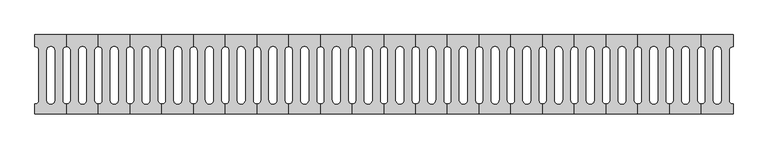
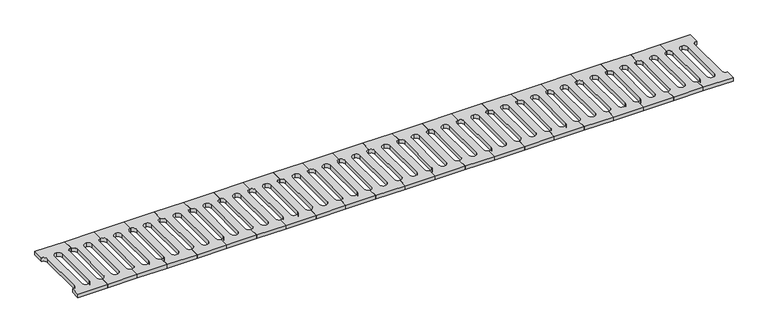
"""IFC4 building model written with IfcOpenShell, lengths in millimetres: proxy geometry, 排水沟盖板 : 排水沟盖板."""

from ifc_helpers import new_model, si_unit, point, frame, frame_2d, origin, place, context, project, spatial, polyline, circle_curve, trimmed, segment, composite_curve, outline, extrude, source, transform, mapped, element, save


def generic_models_5a88f2f2(model_context):
    return source(origin(), model_context, "Body", "SweptSolid", [
        extrude(outline(composite_curve([segment(polyline([(9600.0, 200.0), (9600.0, 140.0)]), True, "CONTINUOUS"), segment(trimmed(circle_curve(frame_2d((9600.0, 120.0)), 20.0), [point((9600.0, 140.0))], [point((9580.0, 120.0))], True, "CARTESIAN"), True, "CONTINUOUS"), segment(polyline([(9580.0, 120.0), (9580.0, -130.0)]), True, "CONTINUOUS"), segment(trimmed(circle_curve(frame_2d((9600.0, -130.0)), 20.0), [point((9580.0, -130.0))], [point((9600.0, -150.0))], True, "CARTESIAN"), True, "CONTINUOUS"), segment(polyline([(9600.0, -150.0), (9600.0, -200.0), (9440.0, -200.0), (9440.0, -150.0)]), True, "CONTINUOUS"), segment(trimmed(circle_curve(frame_2d((9440.0, -130.0)), 20.0), [point((9440.0, -150.0))], [point((9460.0, -130.0))], True, "CARTESIAN"), True, "CONTINUOUS"), segment(polyline([(9460.0, -130.0), (9460.0, 120.0)]), True, "CONTINUOUS"), segment(trimmed(circle_curve(frame_2d((9440.0, 120.0)), 20.0), [point((9460.0, 120.0))], [point((9440.0, 140.0))], True, "CARTESIAN"), True, "CONTINUOUS"), segment(polyline([(9440.0, 140.0), (9440.0, 200.0), (9600.0, 200.0)]), True, "CONTINUOUS")], self_intersect=False), holes=[composite_curve([segment(trimmed(circle_curve(frame_2d((9520.0, -130.0)), 20.0), [point((9500.0, -130.0))], [point((9520.0, -150.0))], True, "CARTESIAN"), True, "CONTINUOUS"), segment(trimmed(circle_curve(frame_2d((9520.0, -130.0)), 20.0), [point((9520.0, -150.0))], [point((9540.0, -130.0))], True, "CARTESIAN"), True, "CONTINUOUS"), segment(polyline([(9540.0, -130.0), (9540.0, 120.0)]), True, "CONTINUOUS"), segment(trimmed(circle_curve(frame_2d((9520.0, 120.0)), 20.0), [point((9540.0, 120.0))], [point((9520.0, 140.0))], True, "CARTESIAN"), True, "CONTINUOUS"), segment(trimmed(circle_curve(frame_2d((9520.0, 120.0)), 20.0), [point((9520.0, 140.0))], [point((9500.0, 120.0))], True, "CARTESIAN"), True, "CONTINUOUS"), segment(polyline([(9500.0, 120.0), (9500.0, -130.0)]), True, "CONTINUOUS")], self_intersect=False)]), frame((0.0, 0.0, -20.0), z_axis=(0.0, 0.0, 1.0), x_axis=(1.0, 0.0, 0.0)), (0.0, 0.0, 1.0), 20.0),
        extrude(outline(composite_curve([segment(polyline([(9440.0, 200.0), (9440.0, 140.0)]), True, "CONTINUOUS"), segment(trimmed(circle_curve(frame_2d((9440.0, 120.0)), 20.0), [point((9440.0, 140.0))], [point((9420.0, 120.0))], True, "CARTESIAN"), True, "CONTINUOUS"), segment(polyline([(9420.0, 120.0), (9420.0, -130.0)]), True, "CONTINUOUS"), segment(trimmed(circle_curve(frame_2d((9440.0, -130.0)), 20.0), [point((9420.0, -130.0))], [point((9440.0, -150.0))], True, "CARTESIAN"), True, "CONTINUOUS"), segment(polyline([(9440.0, -150.0), (9440.0, -200.0), (9280.0, -200.0), (9280.0, -150.0)]), True, "CONTINUOUS"), segment(trimmed(circle_curve(frame_2d((9280.0, -130.0)), 20.0), [point((9280.0, -150.0))], [point((9300.0, -130.0))], True, "CARTESIAN"), True, "CONTINUOUS"), segment(polyline([(9300.0, -130.0), (9300.0, 120.0)]), True, "CONTINUOUS"), segment(trimmed(circle_curve(frame_2d((9280.0, 120.0)), 20.0), [point((9300.0, 120.0))], [point((9280.0, 140.0))], True, "CARTESIAN"), True, "CONTINUOUS"), segment(polyline([(9280.0, 140.0), (9280.0, 200.0), (9440.0, 200.0)]), True, "CONTINUOUS")], self_intersect=False), holes=[composite_curve([segment(trimmed(circle_curve(frame_2d((9360.0, -130.0)), 20.0), [point((9340.0, -130.0))], [point((9360.0, -150.0))], True, "CARTESIAN"), True, "CONTINUOUS"), segment(trimmed(circle_curve(frame_2d((9360.0, -130.0)), 20.0), [point((9360.0, -150.0))], [point((9380.0, -130.0))], True, "CARTESIAN"), True, "CONTINUOUS"), segment(polyline([(9380.0, -130.0), (9380.0, 120.0)]), True, "CONTINUOUS"), segment(trimmed(circle_curve(frame_2d((9360.0, 120.0)), 20.0), [point((9380.0, 120.0))], [point((9360.0, 140.0))], True, "CARTESIAN"), True, "CONTINUOUS"), segment(trimmed(circle_curve(frame_2d((9360.0, 120.0)), 20.0), [point((9360.0, 140.0))], [point((9340.0, 120.0))], True, "CARTESIAN"), True, "CONTINUOUS"), segment(polyline([(9340.0, 120.0), (9340.0, -130.0)]), True, "CONTINUOUS")], self_intersect=False)]), frame((0.0, 0.0, -20.0), z_axis=(0.0, 0.0, 1.0), x_axis=(1.0, 0.0, 0.0)), (0.0, 0.0, 1.0), 20.0),
        extrude(outline(composite_curve([segment(polyline([(9280.0, 200.0), (9280.0, 140.0)]), True, "CONTINUOUS"), segment(trimmed(circle_curve(frame_2d((9280.0, 120.0)), 20.0), [point((9280.0, 140.0))], [point((9260.0, 120.0))], True, "CARTESIAN"), True, "CONTINUOUS"), segment(polyline([(9260.0, 120.0), (9260.0, -130.0)]), True, "CONTINUOUS"), segment(trimmed(circle_curve(frame_2d((9280.0, -130.0)), 20.0), [point((9260.0, -130.0))], [point((9280.0, -150.0))], True, "CARTESIAN"), True, "CONTINUOUS"), segment(polyline([(9280.0, -150.0), (9280.0, -200.0), (9120.0, -200.0), (9120.0, -150.0)]), True, "CONTINUOUS"), segment(trimmed(circle_curve(frame_2d((9120.0, -130.0)), 20.0), [point((9120.0, -150.0))], [point((9140.0, -130.0))], True, "CARTESIAN"), True, "CONTINUOUS"), segment(polyline([(9140.0, -130.0), (9140.0, 120.0)]), True, "CONTINUOUS"), segment(trimmed(circle_curve(frame_2d((9120.0, 120.0)), 20.0), [point((9140.0, 120.0))], [point((9120.0, 140.0))], True, "CARTESIAN"), True, "CONTINUOUS"), segment(polyline([(9120.0, 140.0), (9120.0, 200.0), (9280.0, 200.0)]), True, "CONTINUOUS")], self_intersect=False), holes=[composite_curve([segment(trimmed(circle_curve(frame_2d((9200.0, -130.0)), 20.0), [point((9180.0, -130.0))], [point((9200.0, -150.0))], True, "CARTESIAN"), True, "CONTINUOUS"), segment(trimmed(circle_curve(frame_2d((9200.0, -130.0)), 20.0), [point((9200.0, -150.0))], [point((9220.0, -130.0))], True, "CARTESIAN"), True, "CONTINUOUS"), segment(polyline([(9220.0, -130.0), (9220.0, 120.0)]), True, "CONTINUOUS"), segment(trimmed(circle_curve(frame_2d((9200.0, 120.0)), 20.0), [point((9220.0, 120.0))], [point((9200.0, 140.0))], True, "CARTESIAN"), True, "CONTINUOUS"), segment(trimmed(circle_curve(frame_2d((9200.0, 120.0)), 20.0), [point((9200.0, 140.0))], [point((9180.0, 120.0))], True, "CARTESIAN"), True, "CONTINUOUS"), segment(polyline([(9180.0, 120.0), (9180.0, -130.0)]), True, "CONTINUOUS")], self_intersect=False)]), frame((0.0, 0.0, -20.0), z_axis=(0.0, 0.0, 1.0), x_axis=(1.0, 0.0, 0.0)), (0.0, 0.0, 1.0), 20.0),
        extrude(outline(composite_curve([segment(polyline([(9120.0, 200.0), (9120.0, 140.0)]), True, "CONTINUOUS"), segment(trimmed(circle_curve(frame_2d((9120.0, 120.0)), 20.0), [point((9120.0, 140.0))], [point((9100.0, 120.0))], True, "CARTESIAN"), True, "CONTINUOUS"), segment(polyline([(9100.0, 120.0), (9100.0, -130.0)]), True, "CONTINUOUS"), segment(trimmed(circle_curve(frame_2d((9120.0, -130.0)), 20.0), [point((9100.0, -130.0))], [point((9120.0, -150.0))], True, "CARTESIAN"), True, "CONTINUOUS"), segment(polyline([(9120.0, -150.0), (9120.0, -200.0), (8960.0, -200.0), (8960.0, -150.0)]), True, "CONTINUOUS"), segment(trimmed(circle_curve(frame_2d((8960.0, -130.0)), 20.0), [point((8960.0, -150.0))], [point((8980.0, -130.0))], True, "CARTESIAN"), True, "CONTINUOUS"), segment(polyline([(8980.0, -130.0), (8980.0, 120.0)]), True, "CONTINUOUS"), segment(trimmed(circle_curve(frame_2d((8960.0, 120.0)), 20.0), [point((8980.0, 120.0))], [point((8960.0, 140.0))], True, "CARTESIAN"), True, "CONTINUOUS"), segment(polyline([(8960.0, 140.0), (8960.0, 200.0), (9120.0, 200.0)]), True, "CONTINUOUS")], self_intersect=False), holes=[composite_curve([segment(trimmed(circle_curve(frame_2d((9040.0, -130.0)), 20.0), [point((9020.0, -130.0))], [point((9040.0, -150.0))], True, "CARTESIAN"), True, "CONTINUOUS"), segment(trimmed(circle_curve(frame_2d((9040.0, -130.0)), 20.0), [point((9040.0, -150.0))], [point((9060.0, -130.0))], True, "CARTESIAN"), True, "CONTINUOUS"), segment(polyline([(9060.0, -130.0), (9060.0, 120.0)]), True, "CONTINUOUS"), segment(trimmed(circle_curve(frame_2d((9040.0, 120.0)), 20.0), [point((9060.0, 120.0))], [point((9040.0, 140.0))], True, "CARTESIAN"), True, "CONTINUOUS"), segment(trimmed(circle_curve(frame_2d((9040.0, 120.0)), 20.0), [point((9040.0, 140.0))], [point((9020.0, 120.0))], True, "CARTESIAN"), True, "CONTINUOUS"), segment(polyline([(9020.0, 120.0), (9020.0, -130.0)]), True, "CONTINUOUS")], self_intersect=False)]), frame((0.0, 0.0, -20.0), z_axis=(0.0, 0.0, 1.0), x_axis=(1.0, 0.0, 0.0)), (0.0, 0.0, 1.0), 20.0),
        extrude(outline(composite_curve([segment(polyline([(8960.0, 200.0), (8960.0, 140.0)]), True, "CONTINUOUS"), segment(trimmed(circle_curve(frame_2d((8960.0, 120.0)), 20.0), [point((8960.0, 140.0))], [point((8940.0, 120.0))], True, "CARTESIAN"), True, "CONTINUOUS"), segment(polyline([(8940.0, 120.0), (8940.0, -130.0)]), True, "CONTINUOUS"), segment(trimmed(circle_curve(frame_2d((8960.0, -130.0)), 20.0), [point((8940.0, -130.0))], [point((8960.0, -150.0))], True, "CARTESIAN"), True, "CONTINUOUS"), segment(polyline([(8960.0, -150.0), (8960.0, -200.0), (8800.0, -200.0), (8800.0, -150.0)]), True, "CONTINUOUS"), segment(trimmed(circle_curve(frame_2d((8800.0, -130.0)), 20.0), [point((8800.0, -150.0))], [point((8820.0, -130.0))], True, "CARTESIAN"), True, "CONTINUOUS"), segment(polyline([(8820.0, -130.0), (8820.0, 120.0)]), True, "CONTINUOUS"), segment(trimmed(circle_curve(frame_2d((8800.0, 120.0)), 20.0), [point((8820.0, 120.0))], [point((8800.0, 140.0))], True, "CARTESIAN"), True, "CONTINUOUS"), segment(polyline([(8800.0, 140.0), (8800.0, 200.0), (8960.0, 200.0)]), True, "CONTINUOUS")], self_intersect=False), holes=[composite_curve([segment(trimmed(circle_curve(frame_2d((8880.0, -130.0)), 20.0), [point((8860.0, -130.0))], [point((8880.0, -150.0))], True, "CARTESIAN"), True, "CONTINUOUS"), segment(trimmed(circle_curve(frame_2d((8880.0, -130.0)), 20.0), [point((8880.0, -150.0))], [point((8900.0, -130.0))], True, "CARTESIAN"), True, "CONTINUOUS"), segment(polyline([(8900.0, -130.0), (8900.0, 120.0)]), True, "CONTINUOUS"), segment(trimmed(circle_curve(frame_2d((8880.0, 120.0)), 20.0), [point((8900.0, 120.0))], [point((8880.0, 140.0))], True, "CARTESIAN"), True, "CONTINUOUS"), segment(trimmed(circle_curve(frame_2d((8880.0, 120.0)), 20.0), [point((8880.0, 140.0))], [point((8860.0, 120.0))], True, "CARTESIAN"), True, "CONTINUOUS"), segment(polyline([(8860.0, 120.0), (8860.0, -130.0)]), True, "CONTINUOUS")], self_intersect=False)]), frame((0.0, 0.0, -20.0), z_axis=(0.0, 0.0, 1.0), x_axis=(1.0, 0.0, 0.0)), (0.0, 0.0, 1.0), 20.0),
        extrude(outline(composite_curve([segment(polyline([(8800.0, 200.0), (8800.0, 140.0)]), True, "CONTINUOUS"), segment(trimmed(circle_curve(frame_2d((8800.0, 120.0)), 20.0), [point((8800.0, 140.0))], [point((8780.0, 120.0))], True, "CARTESIAN"), True, "CONTINUOUS"), segment(polyline([(8780.0, 120.0), (8780.0, -130.0)]), True, "CONTINUOUS"), segment(trimmed(circle_curve(frame_2d((8800.0, -130.0)), 20.0), [point((8780.0, -130.0))], [point((8800.0, -150.0))], True, "CARTESIAN"), True, "CONTINUOUS"), segment(polyline([(8800.0, -150.0), (8800.0, -200.0), (8640.0, -200.0), (8640.0, -150.0)]), True, "CONTINUOUS"), segment(trimmed(circle_curve(frame_2d((8640.0, -130.0)), 20.0), [point((8640.0, -150.0))], [point((8660.0, -130.0))], True, "CARTESIAN"), True, "CONTINUOUS"), segment(polyline([(8660.0, -130.0), (8660.0, 120.0)]), True, "CONTINUOUS"), segment(trimmed(circle_curve(frame_2d((8640.0, 120.0)), 20.0), [point((8660.0, 120.0))], [point((8640.0, 140.0))], True, "CARTESIAN"), True, "CONTINUOUS"), segment(polyline([(8640.0, 140.0), (8640.0, 200.0), (8800.0, 200.0)]), True, "CONTINUOUS")], self_intersect=False), holes=[composite_curve([segment(trimmed(circle_curve(frame_2d((8720.0, -130.0)), 20.0), [point((8700.0, -130.0))], [point((8720.0, -150.0))], True, "CARTESIAN"), True, "CONTINUOUS"), segment(trimmed(circle_curve(frame_2d((8720.0, -130.0)), 20.0), [point((8720.0, -150.0))], [point((8740.0, -130.0))], True, "CARTESIAN"), True, "CONTINUOUS"), segment(polyline([(8740.0, -130.0), (8740.0, 120.0)]), True, "CONTINUOUS"), segment(trimmed(circle_curve(frame_2d((8720.0, 120.0)), 20.0), [point((8740.0, 120.0))], [point((8720.0, 140.0))], True, "CARTESIAN"), True, "CONTINUOUS"), segment(trimmed(circle_curve(frame_2d((8720.0, 120.0)), 20.0), [point((8720.0, 140.0))], [point((8700.0, 120.0))], True, "CARTESIAN"), True, "CONTINUOUS"), segment(polyline([(8700.0, 120.0), (8700.0, -130.0)]), True, "CONTINUOUS")], self_intersect=False)]), frame((0.0, 0.0, -20.0), z_axis=(0.0, 0.0, 1.0), x_axis=(1.0, 0.0, 0.0)), (0.0, 0.0, 1.0), 20.0),
        extrude(outline(composite_curve([segment(polyline([(8640.0, 200.0), (8640.0, 140.0)]), True, "CONTINUOUS"), segment(trimmed(circle_curve(frame_2d((8640.0, 120.0)), 20.0), [point((8640.0, 140.0))], [point((8620.0, 120.0))], True, "CARTESIAN"), True, "CONTINUOUS"), segment(polyline([(8620.0, 120.0), (8620.0, -130.0)]), True, "CONTINUOUS"), segment(trimmed(circle_curve(frame_2d((8640.0, -130.0)), 20.0), [point((8620.0, -130.0))], [point((8640.0, -150.0))], True, "CARTESIAN"), True, "CONTINUOUS"), segment(polyline([(8640.0, -150.0), (8640.0, -200.0), (8480.0, -200.0), (8480.0, -150.0)]), True, "CONTINUOUS"), segment(trimmed(circle_curve(frame_2d((8480.0, -130.0)), 20.0), [point((8480.0, -150.0))], [point((8500.0, -130.0))], True, "CARTESIAN"), True, "CONTINUOUS"), segment(polyline([(8500.0, -130.0), (8500.0, 120.0)]), True, "CONTINUOUS"), segment(trimmed(circle_curve(frame_2d((8480.0, 120.0)), 20.0), [point((8500.0, 120.0))], [point((8480.0, 140.0))], True, "CARTESIAN"), True, "CONTINUOUS"), segment(polyline([(8480.0, 140.0), (8480.0, 200.0), (8640.0, 200.0)]), True, "CONTINUOUS")], self_intersect=False), holes=[composite_curve([segment(trimmed(circle_curve(frame_2d((8560.0, -130.0)), 20.0), [point((8540.0, -130.0))], [point((8560.0, -150.0))], True, "CARTESIAN"), True, "CONTINUOUS"), segment(trimmed(circle_curve(frame_2d((8560.0, -130.0)), 20.0), [point((8560.0, -150.0))], [point((8580.0, -130.0))], True, "CARTESIAN"), True, "CONTINUOUS"), segment(polyline([(8580.0, -130.0), (8580.0, 120.0)]), True, "CONTINUOUS"), segment(trimmed(circle_curve(frame_2d((8560.0, 120.0)), 20.0), [point((8580.0, 120.0))], [point((8560.0, 140.0))], True, "CARTESIAN"), True, "CONTINUOUS"), segment(trimmed(circle_curve(frame_2d((8560.0, 120.0)), 20.0), [point((8560.0, 140.0))], [point((8540.0, 120.0))], True, "CARTESIAN"), True, "CONTINUOUS"), segment(polyline([(8540.0, 120.0), (8540.0, -130.0)]), True, "CONTINUOUS")], self_intersect=False)]), frame((0.0, 0.0, -20.0), z_axis=(0.0, 0.0, 1.0), x_axis=(1.0, 0.0, 0.0)), (0.0, 0.0, 1.0), 20.0),
        extrude(outline(composite_curve([segment(polyline([(8480.0, 200.0), (8480.0, 140.0)]), True, "CONTINUOUS"), segment(trimmed(circle_curve(frame_2d((8480.0, 120.0)), 20.0), [point((8480.0, 140.0))], [point((8460.0, 120.0))], True, "CARTESIAN"), True, "CONTINUOUS"), segment(polyline([(8460.0, 120.0), (8460.0, -130.0)]), True, "CONTINUOUS"), segment(trimmed(circle_curve(frame_2d((8480.0, -130.0)), 20.0), [point((8460.0, -130.0))], [point((8480.0, -150.0))], True, "CARTESIAN"), True, "CONTINUOUS"), segment(polyline([(8480.0, -150.0), (8480.0, -200.0), (8320.0, -200.0), (8320.0, -150.0)]), True, "CONTINUOUS"), segment(trimmed(circle_curve(frame_2d((8320.0, -130.0)), 20.0), [point((8320.0, -150.0))], [point((8340.0, -130.0))], True, "CARTESIAN"), True, "CONTINUOUS"), segment(polyline([(8340.0, -130.0), (8340.0, 120.0)]), True, "CONTINUOUS"), segment(trimmed(circle_curve(frame_2d((8320.0, 120.0)), 20.0), [point((8340.0, 120.0))], [point((8320.0, 140.0))], True, "CARTESIAN"), True, "CONTINUOUS"), segment(polyline([(8320.0, 140.0), (8320.0, 200.0), (8480.0, 200.0)]), True, "CONTINUOUS")], self_intersect=False), holes=[composite_curve([segment(trimmed(circle_curve(frame_2d((8400.0, -130.0)), 20.0), [point((8380.0, -130.0))], [point((8400.0, -150.0))], True, "CARTESIAN"), True, "CONTINUOUS"), segment(trimmed(circle_curve(frame_2d((8400.0, -130.0)), 20.0), [point((8400.0, -150.0))], [point((8420.0, -130.0))], True, "CARTESIAN"), True, "CONTINUOUS"), segment(polyline([(8420.0, -130.0), (8420.0, 120.0)]), True, "CONTINUOUS"), segment(trimmed(circle_curve(frame_2d((8400.0, 120.0)), 20.0), [point((8420.0, 120.0))], [point((8400.0, 140.0))], True, "CARTESIAN"), True, "CONTINUOUS"), segment(trimmed(circle_curve(frame_2d((8400.0, 120.0)), 20.0), [point((8400.0, 140.0))], [point((8380.0, 120.0))], True, "CARTESIAN"), True, "CONTINUOUS"), segment(polyline([(8380.0, 120.0), (8380.0, -130.0)]), True, "CONTINUOUS")], self_intersect=False)]), frame((0.0, 0.0, -20.0), z_axis=(0.0, 0.0, 1.0), x_axis=(1.0, 0.0, 0.0)), (0.0, 0.0, 1.0), 20.0),
        extrude(outline(composite_curve([segment(polyline([(8320.0, 200.0), (8320.0, 140.0)]), True, "CONTINUOUS"), segment(trimmed(circle_curve(frame_2d((8320.0, 120.0)), 20.0), [point((8320.0, 140.0))], [point((8300.0, 120.0))], True, "CARTESIAN"), True, "CONTINUOUS"), segment(polyline([(8300.0, 120.0), (8300.0, -130.0)]), True, "CONTINUOUS"), segment(trimmed(circle_curve(frame_2d((8320.0, -130.0)), 20.0), [point((8300.0, -130.0))], [point((8320.0, -150.0))], True, "CARTESIAN"), True, "CONTINUOUS"), segment(polyline([(8320.0, -150.0), (8320.0, -200.0), (8160.0, -200.0), (8160.0, -150.0)]), True, "CONTINUOUS"), segment(trimmed(circle_curve(frame_2d((8160.0, -130.0)), 20.0), [point((8160.0, -150.0))], [point((8180.0, -130.0))], True, "CARTESIAN"), True, "CONTINUOUS"), segment(polyline([(8180.0, -130.0), (8180.0, 120.0)]), True, "CONTINUOUS"), segment(trimmed(circle_curve(frame_2d((8160.0, 120.0)), 20.0), [point((8180.0, 120.0))], [point((8160.0, 140.0))], True, "CARTESIAN"), True, "CONTINUOUS"), segment(polyline([(8160.0, 140.0), (8160.0, 200.0), (8320.0, 200.0)]), True, "CONTINUOUS")], self_intersect=False), holes=[composite_curve([segment(trimmed(circle_curve(frame_2d((8240.0, -130.0)), 20.0), [point((8220.0, -130.0))], [point((8240.0, -150.0))], True, "CARTESIAN"), True, "CONTINUOUS"), segment(trimmed(circle_curve(frame_2d((8240.0, -130.0)), 20.0), [point((8240.0, -150.0))], [point((8260.0, -130.0))], True, "CARTESIAN"), True, "CONTINUOUS"), segment(polyline([(8260.0, -130.0), (8260.0, 120.0)]), True, "CONTINUOUS"), segment(trimmed(circle_curve(frame_2d((8240.0, 120.0)), 20.0), [point((8260.0, 120.0))], [point((8240.0, 140.0))], True, "CARTESIAN"), True, "CONTINUOUS"), segment(trimmed(circle_curve(frame_2d((8240.0, 120.0)), 20.0), [point((8240.0, 140.0))], [point((8220.0, 120.0))], True, "CARTESIAN"), True, "CONTINUOUS"), segment(polyline([(8220.0, 120.0), (8220.0, -130.0)]), True, "CONTINUOUS")], self_intersect=False)]), frame((0.0, 0.0, -20.0), z_axis=(0.0, 0.0, 1.0), x_axis=(1.0, 0.0, 0.0)), (0.0, 0.0, 1.0), 20.0),
        extrude(outline(composite_curve([segment(polyline([(8160.0, 200.0), (8160.0, 140.0)]), True, "CONTINUOUS"), segment(trimmed(circle_curve(frame_2d((8160.0, 120.0)), 20.0), [point((8160.0, 140.0))], [point((8140.0, 120.0))], True, "CARTESIAN"), True, "CONTINUOUS"), segment(polyline([(8140.0, 120.0), (8140.0, -130.0)]), True, "CONTINUOUS"), segment(trimmed(circle_curve(frame_2d((8160.0, -130.0)), 20.0), [point((8140.0, -130.0))], [point((8160.0, -150.0))], True, "CARTESIAN"), True, "CONTINUOUS"), segment(polyline([(8160.0, -150.0), (8160.0, -200.0), (8000.0, -200.0), (8000.0, -150.0)]), True, "CONTINUOUS"), segment(trimmed(circle_curve(frame_2d((8000.0, -130.0)), 20.0), [point((8000.0, -150.0))], [point((8020.0, -130.0))], True, "CARTESIAN"), True, "CONTINUOUS"), segment(polyline([(8020.0, -130.0), (8020.0, 120.0)]), True, "CONTINUOUS"), segment(trimmed(circle_curve(frame_2d((8000.0, 120.0)), 20.0), [point((8020.0, 120.0))], [point((8000.0, 140.0))], True, "CARTESIAN"), True, "CONTINUOUS"), segment(polyline([(8000.0, 140.0), (8000.0, 200.0), (8160.0, 200.0)]), True, "CONTINUOUS")], self_intersect=False), holes=[composite_curve([segment(trimmed(circle_curve(frame_2d((8080.0, -130.0)), 20.0), [point((8060.0, -130.0))], [point((8080.0, -150.0))], True, "CARTESIAN"), True, "CONTINUOUS"), segment(trimmed(circle_curve(frame_2d((8080.0, -130.0)), 20.0), [point((8080.0, -150.0))], [point((8100.0, -130.0))], True, "CARTESIAN"), True, "CONTINUOUS"), segment(polyline([(8100.0, -130.0), (8100.0, 120.0)]), True, "CONTINUOUS"), segment(trimmed(circle_curve(frame_2d((8080.0, 120.0)), 20.0), [point((8100.0, 120.0))], [point((8080.0, 140.0))], True, "CARTESIAN"), True, "CONTINUOUS"), segment(trimmed(circle_curve(frame_2d((8080.0, 120.0)), 20.0), [point((8080.0, 140.0))], [point((8060.0, 120.0))], True, "CARTESIAN"), True, "CONTINUOUS"), segment(polyline([(8060.0, 120.0), (8060.0, -130.0)]), True, "CONTINUOUS")], self_intersect=False)]), frame((0.0, 0.0, -20.0), z_axis=(0.0, 0.0, 1.0), x_axis=(1.0, 0.0, 0.0)), (0.0, 0.0, 1.0), 20.0),
        extrude(outline(composite_curve([segment(polyline([(8000.0, 200.0), (8000.0, 140.0)]), True, "CONTINUOUS"), segment(trimmed(circle_curve(frame_2d((8000.0, 120.0)), 20.0), [point((8000.0, 140.0))], [point((7980.0, 120.0))], True, "CARTESIAN"), True, "CONTINUOUS"), segment(polyline([(7980.0, 120.0), (7980.0, -130.0)]), True, "CONTINUOUS"), segment(trimmed(circle_curve(frame_2d((8000.0, -130.0)), 20.0), [point((7980.0, -130.0))], [point((8000.0, -150.0))], True, "CARTESIAN"), True, "CONTINUOUS"), segment(polyline([(8000.0, -150.0), (8000.0, -200.0), (7840.0, -200.0), (7840.0, -150.0)]), True, "CONTINUOUS"), segment(trimmed(circle_curve(frame_2d((7840.0, -130.0)), 20.0), [point((7840.0, -150.0))], [point((7860.0, -130.0))], True, "CARTESIAN"), True, "CONTINUOUS"), segment(polyline([(7860.0, -130.0), (7860.0, 120.0)]), True, "CONTINUOUS"), segment(trimmed(circle_curve(frame_2d((7840.0, 120.0)), 20.0), [point((7860.0, 120.0))], [point((7840.0, 140.0))], True, "CARTESIAN"), True, "CONTINUOUS"), segment(polyline([(7840.0, 140.0), (7840.0, 200.0), (8000.0, 200.0)]), True, "CONTINUOUS")], self_intersect=False), holes=[composite_curve([segment(trimmed(circle_curve(frame_2d((7920.0, -130.0)), 20.0), [point((7900.0, -130.0))], [point((7920.0, -150.0))], True, "CARTESIAN"), True, "CONTINUOUS"), segment(trimmed(circle_curve(frame_2d((7920.0, -130.0)), 20.0), [point((7920.0, -150.0))], [point((7940.0, -130.0))], True, "CARTESIAN"), True, "CONTINUOUS"), segment(polyline([(7940.0, -130.0), (7940.0, 120.0)]), True, "CONTINUOUS"), segment(trimmed(circle_curve(frame_2d((7920.0, 120.0)), 20.0), [point((7940.0, 120.0))], [point((7920.0, 140.0))], True, "CARTESIAN"), True, "CONTINUOUS"), segment(trimmed(circle_curve(frame_2d((7920.0, 120.0)), 20.0), [point((7920.0, 140.0))], [point((7900.0, 120.0))], True, "CARTESIAN"), True, "CONTINUOUS"), segment(polyline([(7900.0, 120.0), (7900.0, -130.0)]), True, "CONTINUOUS")], self_intersect=False)]), frame((0.0, 0.0, -20.0), z_axis=(0.0, 0.0, 1.0), x_axis=(1.0, 0.0, 0.0)), (0.0, 0.0, 1.0), 20.0),
        extrude(outline(composite_curve([segment(polyline([(7840.0, 200.0), (7840.0, 140.0)]), True, "CONTINUOUS"), segment(trimmed(circle_curve(frame_2d((7840.0, 120.0)), 20.0), [point((7840.0, 140.0))], [point((7820.0, 120.0))], True, "CARTESIAN"), True, "CONTINUOUS"), segment(polyline([(7820.0, 120.0), (7820.0, -130.0)]), True, "CONTINUOUS"), segment(trimmed(circle_curve(frame_2d((7840.0, -130.0)), 20.0), [point((7820.0, -130.0))], [point((7840.0, -150.0))], True, "CARTESIAN"), True, "CONTINUOUS"), segment(polyline([(7840.0, -150.0), (7840.0, -200.0), (7680.0, -200.0), (7680.0, -150.0)]), True, "CONTINUOUS"), segment(trimmed(circle_curve(frame_2d((7680.0, -130.0)), 20.0), [point((7680.0, -150.0))], [point((7700.0, -130.0))], True, "CARTESIAN"), True, "CONTINUOUS"), segment(polyline([(7700.0, -130.0), (7700.0, 120.0)]), True, "CONTINUOUS"), segment(trimmed(circle_curve(frame_2d((7680.0, 120.0)), 20.0), [point((7700.0, 120.0))], [point((7680.0, 140.0))], True, "CARTESIAN"), True, "CONTINUOUS"), segment(polyline([(7680.0, 140.0), (7680.0, 200.0), (7840.0, 200.0)]), True, "CONTINUOUS")], self_intersect=False), holes=[composite_curve([segment(trimmed(circle_curve(frame_2d((7760.0, -130.0)), 20.0), [point((7740.0, -130.0))], [point((7760.0, -150.0))], True, "CARTESIAN"), True, "CONTINUOUS"), segment(trimmed(circle_curve(frame_2d((7760.0, -130.0)), 20.0), [point((7760.0, -150.0))], [point((7780.0, -130.0))], True, "CARTESIAN"), True, "CONTINUOUS"), segment(polyline([(7780.0, -130.0), (7780.0, 120.0)]), True, "CONTINUOUS"), segment(trimmed(circle_curve(frame_2d((7760.0, 120.0)), 20.0), [point((7780.0, 120.0))], [point((7760.0, 140.0))], True, "CARTESIAN"), True, "CONTINUOUS"), segment(trimmed(circle_curve(frame_2d((7760.0, 120.0)), 20.0), [point((7760.0, 140.0))], [point((7740.0, 120.0))], True, "CARTESIAN"), True, "CONTINUOUS"), segment(polyline([(7740.0, 120.0), (7740.0, -130.0)]), True, "CONTINUOUS")], self_intersect=False)]), frame((0.0, 0.0, -20.0), z_axis=(0.0, 0.0, 1.0), x_axis=(1.0, 0.0, 0.0)), (0.0, 0.0, 1.0), 20.0),
        extrude(outline(composite_curve([segment(polyline([(7680.0, 200.0), (7680.0, 140.0)]), True, "CONTINUOUS"), segment(trimmed(circle_curve(frame_2d((7680.0, 120.0)), 20.0), [point((7680.0, 140.0))], [point((7660.0, 120.0))], True, "CARTESIAN"), True, "CONTINUOUS"), segment(polyline([(7660.0, 120.0), (7660.0, -130.0)]), True, "CONTINUOUS"), segment(trimmed(circle_curve(frame_2d((7680.0, -130.0)), 20.0), [point((7660.0, -130.0))], [point((7680.0, -150.0))], True, "CARTESIAN"), True, "CONTINUOUS"), segment(polyline([(7680.0, -150.0), (7680.0, -200.0), (7520.0, -200.0), (7520.0, -150.0)]), True, "CONTINUOUS"), segment(trimmed(circle_curve(frame_2d((7520.0, -130.0)), 20.0), [point((7520.0, -150.0))], [point((7540.0, -130.0))], True, "CARTESIAN"), True, "CONTINUOUS"), segment(polyline([(7540.0, -130.0), (7540.0, 120.0)]), True, "CONTINUOUS"), segment(trimmed(circle_curve(frame_2d((7520.0, 120.0)), 20.0), [point((7540.0, 120.0))], [point((7520.0, 140.0))], True, "CARTESIAN"), True, "CONTINUOUS"), segment(polyline([(7520.0, 140.0), (7520.0, 200.0), (7680.0, 200.0)]), True, "CONTINUOUS")], self_intersect=False), holes=[composite_curve([segment(trimmed(circle_curve(frame_2d((7600.0, -130.0)), 20.0), [point((7580.0, -130.0))], [point((7600.0, -150.0))], True, "CARTESIAN"), True, "CONTINUOUS"), segment(trimmed(circle_curve(frame_2d((7600.0, -130.0)), 20.0), [point((7600.0, -150.0))], [point((7620.0, -130.0))], True, "CARTESIAN"), True, "CONTINUOUS"), segment(polyline([(7620.0, -130.0), (7620.0, 120.0)]), True, "CONTINUOUS"), segment(trimmed(circle_curve(frame_2d((7600.0, 120.0)), 20.0), [point((7620.0, 120.0))], [point((7600.0, 140.0))], True, "CARTESIAN"), True, "CONTINUOUS"), segment(trimmed(circle_curve(frame_2d((7600.0, 120.0)), 20.0), [point((7600.0, 140.0))], [point((7580.0, 120.0))], True, "CARTESIAN"), True, "CONTINUOUS"), segment(polyline([(7580.0, 120.0), (7580.0, -130.0)]), True, "CONTINUOUS")], self_intersect=False)]), frame((0.0, 0.0, -20.0), z_axis=(0.0, 0.0, 1.0), x_axis=(1.0, 0.0, 0.0)), (0.0, 0.0, 1.0), 20.0),
        extrude(outline(composite_curve([segment(polyline([(7520.0, 200.0), (7520.0, 140.0)]), True, "CONTINUOUS"), segment(trimmed(circle_curve(frame_2d((7520.0, 120.0)), 20.0), [point((7520.0, 140.0))], [point((7500.0, 120.0))], True, "CARTESIAN"), True, "CONTINUOUS"), segment(polyline([(7500.0, 120.0), (7500.0, -130.0)]), True, "CONTINUOUS"), segment(trimmed(circle_curve(frame_2d((7520.0, -130.0)), 20.0), [point((7500.0, -130.0))], [point((7520.0, -150.0))], True, "CARTESIAN"), True, "CONTINUOUS"), segment(polyline([(7520.0, -150.0), (7520.0, -200.0), (7360.0, -200.0), (7360.0, -150.0)]), True, "CONTINUOUS"), segment(trimmed(circle_curve(frame_2d((7360.0, -130.0)), 20.0), [point((7360.0, -150.0))], [point((7380.0, -130.0))], True, "CARTESIAN"), True, "CONTINUOUS"), segment(polyline([(7380.0, -130.0), (7380.0, 120.0)]), True, "CONTINUOUS"), segment(trimmed(circle_curve(frame_2d((7360.0, 120.0)), 20.0), [point((7380.0, 120.0))], [point((7360.0, 140.0))], True, "CARTESIAN"), True, "CONTINUOUS"), segment(polyline([(7360.0, 140.0), (7360.0, 200.0), (7520.0, 200.0)]), True, "CONTINUOUS")], self_intersect=False), holes=[composite_curve([segment(trimmed(circle_curve(frame_2d((7440.0, -130.0)), 20.0), [point((7420.0, -130.0))], [point((7440.0, -150.0))], True, "CARTESIAN"), True, "CONTINUOUS"), segment(trimmed(circle_curve(frame_2d((7440.0, -130.0)), 20.0), [point((7440.0, -150.0))], [point((7460.0, -130.0))], True, "CARTESIAN"), True, "CONTINUOUS"), segment(polyline([(7460.0, -130.0), (7460.0, 120.0)]), True, "CONTINUOUS"), segment(trimmed(circle_curve(frame_2d((7440.0, 120.0)), 20.0), [point((7460.0, 120.0))], [point((7440.0, 140.0))], True, "CARTESIAN"), True, "CONTINUOUS"), segment(trimmed(circle_curve(frame_2d((7440.0, 120.0)), 20.0), [point((7440.0, 140.0))], [point((7420.0, 120.0))], True, "CARTESIAN"), True, "CONTINUOUS"), segment(polyline([(7420.0, 120.0), (7420.0, -130.0)]), True, "CONTINUOUS")], self_intersect=False)]), frame((0.0, 0.0, -20.0), z_axis=(0.0, 0.0, 1.0), x_axis=(1.0, 0.0, 0.0)), (0.0, 0.0, 1.0), 20.0),
        extrude(outline(composite_curve([segment(polyline([(7360.0, 200.0), (7360.0, 140.0)]), True, "CONTINUOUS"), segment(trimmed(circle_curve(frame_2d((7360.0, 120.0)), 20.0), [point((7360.0, 140.0))], [point((7340.0, 120.0))], True, "CARTESIAN"), True, "CONTINUOUS"), segment(polyline([(7340.0, 120.0), (7340.0, -130.0)]), True, "CONTINUOUS"), segment(trimmed(circle_curve(frame_2d((7360.0, -130.0)), 20.0), [point((7340.0, -130.0))], [point((7360.0, -150.0))], True, "CARTESIAN"), True, "CONTINUOUS"), segment(polyline([(7360.0, -150.0), (7360.0, -200.0), (7200.0, -200.0), (7200.0, -150.0)]), True, "CONTINUOUS"), segment(trimmed(circle_curve(frame_2d((7200.0, -130.0)), 20.0), [point((7200.0, -150.0))], [point((7220.0, -130.0))], True, "CARTESIAN"), True, "CONTINUOUS"), segment(polyline([(7220.0, -130.0), (7220.0, 120.0)]), True, "CONTINUOUS"), segment(trimmed(circle_curve(frame_2d((7200.0, 120.0)), 20.0), [point((7220.0, 120.0))], [point((7200.0, 140.0))], True, "CARTESIAN"), True, "CONTINUOUS"), segment(polyline([(7200.0, 140.0), (7200.0, 200.0), (7360.0, 200.0)]), True, "CONTINUOUS")], self_intersect=False), holes=[composite_curve([segment(trimmed(circle_curve(frame_2d((7280.0, -130.0)), 20.0), [point((7260.0, -130.0))], [point((7280.0, -150.0))], True, "CARTESIAN"), True, "CONTINUOUS"), segment(trimmed(circle_curve(frame_2d((7280.0, -130.0)), 20.0), [point((7280.0, -150.0))], [point((7300.0, -130.0))], True, "CARTESIAN"), True, "CONTINUOUS"), segment(polyline([(7300.0, -130.0), (7300.0, 120.0)]), True, "CONTINUOUS"), segment(trimmed(circle_curve(frame_2d((7280.0, 120.0)), 20.0), [point((7300.0, 120.0))], [point((7280.0, 140.0))], True, "CARTESIAN"), True, "CONTINUOUS"), segment(trimmed(circle_curve(frame_2d((7280.0, 120.0)), 20.0), [point((7280.0, 140.0))], [point((7260.0, 120.0))], True, "CARTESIAN"), True, "CONTINUOUS"), segment(polyline([(7260.0, 120.0), (7260.0, -130.0)]), True, "CONTINUOUS")], self_intersect=False)]), frame((0.0, 0.0, -20.0), z_axis=(0.0, 0.0, 1.0), x_axis=(1.0, 0.0, 0.0)), (0.0, 0.0, 1.0), 20.0),
        extrude(outline(composite_curve([segment(polyline([(7200.0, 200.0), (7200.0, 140.0)]), True, "CONTINUOUS"), segment(trimmed(circle_curve(frame_2d((7200.0, 120.0)), 20.0), [point((7200.0, 140.0))], [point((7180.0, 120.0))], True, "CARTESIAN"), True, "CONTINUOUS"), segment(polyline([(7180.0, 120.0), (7180.0, -130.0)]), True, "CONTINUOUS"), segment(trimmed(circle_curve(frame_2d((7200.0, -130.0)), 20.0), [point((7180.0, -130.0))], [point((7200.0, -150.0))], True, "CARTESIAN"), True, "CONTINUOUS"), segment(polyline([(7200.0, -150.0), (7200.0, -200.0), (7040.0, -200.0), (7040.0, -150.0)]), True, "CONTINUOUS"), segment(trimmed(circle_curve(frame_2d((7040.0, -130.0)), 20.0), [point((7040.0, -150.0))], [point((7060.0, -130.0))], True, "CARTESIAN"), True, "CONTINUOUS"), segment(polyline([(7060.0, -130.0), (7060.0, 120.0)]), True, "CONTINUOUS"), segment(trimmed(circle_curve(frame_2d((7040.0, 120.0)), 20.0), [point((7060.0, 120.0))], [point((7040.0, 140.0))], True, "CARTESIAN"), True, "CONTINUOUS"), segment(polyline([(7040.0, 140.0), (7040.0, 200.0), (7200.0, 200.0)]), True, "CONTINUOUS")], self_intersect=False), holes=[composite_curve([segment(trimmed(circle_curve(frame_2d((7120.0, -130.0)), 20.0), [point((7100.0, -130.0))], [point((7120.0, -150.0))], True, "CARTESIAN"), True, "CONTINUOUS"), segment(trimmed(circle_curve(frame_2d((7120.0, -130.0)), 20.0), [point((7120.0, -150.0))], [point((7140.0, -130.0))], True, "CARTESIAN"), True, "CONTINUOUS"), segment(polyline([(7140.0, -130.0), (7140.0, 120.0)]), True, "CONTINUOUS"), segment(trimmed(circle_curve(frame_2d((7120.0, 120.0)), 20.0), [point((7140.0, 120.0))], [point((7120.0, 140.0))], True, "CARTESIAN"), True, "CONTINUOUS"), segment(trimmed(circle_curve(frame_2d((7120.0, 120.0)), 20.0), [point((7120.0, 140.0))], [point((7100.0, 120.0))], True, "CARTESIAN"), True, "CONTINUOUS"), segment(polyline([(7100.0, 120.0), (7100.0, -130.0)]), True, "CONTINUOUS")], self_intersect=False)]), frame((0.0, 0.0, -20.0), z_axis=(0.0, 0.0, 1.0), x_axis=(1.0, 0.0, 0.0)), (0.0, 0.0, 1.0), 20.0),
        extrude(outline(composite_curve([segment(polyline([(7040.0, 200.0), (7040.0, 140.0)]), True, "CONTINUOUS"), segment(trimmed(circle_curve(frame_2d((7040.0, 120.0)), 20.0), [point((7040.0, 140.0))], [point((7020.0, 120.0))], True, "CARTESIAN"), True, "CONTINUOUS"), segment(polyline([(7020.0, 120.0), (7020.0, -130.0)]), True, "CONTINUOUS"), segment(trimmed(circle_curve(frame_2d((7040.0, -130.0)), 20.0), [point((7020.0, -130.0))], [point((7040.0, -150.0))], True, "CARTESIAN"), True, "CONTINUOUS"), segment(polyline([(7040.0, -150.0), (7040.0, -200.0), (6880.0, -200.0), (6880.0, -150.0)]), True, "CONTINUOUS"), segment(trimmed(circle_curve(frame_2d((6880.0, -130.0)), 20.0), [point((6880.0, -150.0))], [point((6900.0, -130.0))], True, "CARTESIAN"), True, "CONTINUOUS"), segment(polyline([(6900.0, -130.0), (6900.0, 120.0)]), True, "CONTINUOUS"), segment(trimmed(circle_curve(frame_2d((6880.0, 120.0)), 20.0), [point((6900.0, 120.0))], [point((6880.0, 140.0))], True, "CARTESIAN"), True, "CONTINUOUS"), segment(polyline([(6880.0, 140.0), (6880.0, 200.0), (7040.0, 200.0)]), True, "CONTINUOUS")], self_intersect=False), holes=[composite_curve([segment(trimmed(circle_curve(frame_2d((6960.0, -130.0)), 20.0), [point((6940.0, -130.0))], [point((6960.0, -150.0))], True, "CARTESIAN"), True, "CONTINUOUS"), segment(trimmed(circle_curve(frame_2d((6960.0, -130.0)), 20.0), [point((6960.0, -150.0))], [point((6980.0, -130.0))], True, "CARTESIAN"), True, "CONTINUOUS"), segment(polyline([(6980.0, -130.0), (6980.0, 120.0)]), True, "CONTINUOUS"), segment(trimmed(circle_curve(frame_2d((6960.0, 120.0)), 20.0), [point((6980.0, 120.0))], [point((6960.0, 140.0))], True, "CARTESIAN"), True, "CONTINUOUS"), segment(trimmed(circle_curve(frame_2d((6960.0, 120.0)), 20.0), [point((6960.0, 140.0))], [point((6940.0, 120.0))], True, "CARTESIAN"), True, "CONTINUOUS"), segment(polyline([(6940.0, 120.0), (6940.0, -130.0)]), True, "CONTINUOUS")], self_intersect=False)]), frame((0.0, 0.0, -20.0), z_axis=(0.0, 0.0, 1.0), x_axis=(1.0, 0.0, 0.0)), (0.0, 0.0, 1.0), 20.0),
        extrude(outline(composite_curve([segment(polyline([(6880.0, 200.0), (6880.0, 140.0)]), True, "CONTINUOUS"), segment(trimmed(circle_curve(frame_2d((6880.0, 120.0)), 20.0), [point((6880.0, 140.0))], [point((6860.0, 120.0))], True, "CARTESIAN"), True, "CONTINUOUS"), segment(polyline([(6860.0, 120.0), (6860.0, -130.0)]), True, "CONTINUOUS"), segment(trimmed(circle_curve(frame_2d((6880.0, -130.0)), 20.0), [point((6860.0, -130.0))], [point((6880.0, -150.0))], True, "CARTESIAN"), True, "CONTINUOUS"), segment(polyline([(6880.0, -150.0), (6880.0, -200.0), (6720.0, -200.0), (6720.0, -150.0)]), True, "CONTINUOUS"), segment(trimmed(circle_curve(frame_2d((6720.0, -130.0)), 20.0), [point((6720.0, -150.0))], [point((6740.0, -130.0))], True, "CARTESIAN"), True, "CONTINUOUS"), segment(polyline([(6740.0, -130.0), (6740.0, 120.0)]), True, "CONTINUOUS"), segment(trimmed(circle_curve(frame_2d((6720.0, 120.0)), 20.0), [point((6740.0, 120.0))], [point((6720.0, 140.0))], True, "CARTESIAN"), True, "CONTINUOUS"), segment(polyline([(6720.0, 140.0), (6720.0, 200.0), (6880.0, 200.0)]), True, "CONTINUOUS")], self_intersect=False), holes=[composite_curve([segment(trimmed(circle_curve(frame_2d((6800.0, -130.0)), 20.0), [point((6780.0, -130.0))], [point((6800.0, -150.0))], True, "CARTESIAN"), True, "CONTINUOUS"), segment(trimmed(circle_curve(frame_2d((6800.0, -130.0)), 20.0), [point((6800.0, -150.0))], [point((6820.0, -130.0))], True, "CARTESIAN"), True, "CONTINUOUS"), segment(polyline([(6820.0, -130.0), (6820.0, 120.0)]), True, "CONTINUOUS"), segment(trimmed(circle_curve(frame_2d((6800.0, 120.0)), 20.0), [point((6820.0, 120.0))], [point((6800.0, 140.0))], True, "CARTESIAN"), True, "CONTINUOUS"), segment(trimmed(circle_curve(frame_2d((6800.0, 120.0)), 20.0), [point((6800.0, 140.0))], [point((6780.0, 120.0))], True, "CARTESIAN"), True, "CONTINUOUS"), segment(polyline([(6780.0, 120.0), (6780.0, -130.0)]), True, "CONTINUOUS")], self_intersect=False)]), frame((0.0, 0.0, -20.0), z_axis=(0.0, 0.0, 1.0), x_axis=(1.0, 0.0, 0.0)), (0.0, 0.0, 1.0), 20.0),
        extrude(outline(composite_curve([segment(polyline([(6720.0, 200.0), (6720.0, 140.0)]), True, "CONTINUOUS"), segment(trimmed(circle_curve(frame_2d((6720.0, 120.0)), 20.0), [point((6720.0, 140.0))], [point((6700.0, 120.0))], True, "CARTESIAN"), True, "CONTINUOUS"), segment(polyline([(6700.0, 120.0), (6700.0, -130.0)]), True, "CONTINUOUS"), segment(trimmed(circle_curve(frame_2d((6720.0, -130.0)), 20.0), [point((6700.0, -130.0))], [point((6720.0, -150.0))], True, "CARTESIAN"), True, "CONTINUOUS"), segment(polyline([(6720.0, -150.0), (6720.0, -200.0), (6560.0, -200.0), (6560.0, -150.0)]), True, "CONTINUOUS"), segment(trimmed(circle_curve(frame_2d((6560.0, -130.0)), 20.0), [point((6560.0, -150.0))], [point((6580.0, -130.0))], True, "CARTESIAN"), True, "CONTINUOUS"), segment(polyline([(6580.0, -130.0), (6580.0, 120.0)]), True, "CONTINUOUS"), segment(trimmed(circle_curve(frame_2d((6560.0, 120.0)), 20.0), [point((6580.0, 120.0))], [point((6560.0, 140.0))], True, "CARTESIAN"), True, "CONTINUOUS"), segment(polyline([(6560.0, 140.0), (6560.0, 200.0), (6720.0, 200.0)]), True, "CONTINUOUS")], self_intersect=False), holes=[composite_curve([segment(trimmed(circle_curve(frame_2d((6640.0, -130.0)), 20.0), [point((6620.0, -130.0))], [point((6640.0, -150.0))], True, "CARTESIAN"), True, "CONTINUOUS"), segment(trimmed(circle_curve(frame_2d((6640.0, -130.0)), 20.0), [point((6640.0, -150.0))], [point((6660.0, -130.0))], True, "CARTESIAN"), True, "CONTINUOUS"), segment(polyline([(6660.0, -130.0), (6660.0, 120.0)]), True, "CONTINUOUS"), segment(trimmed(circle_curve(frame_2d((6640.0, 120.0)), 20.0), [point((6660.0, 120.0))], [point((6640.0, 140.0))], True, "CARTESIAN"), True, "CONTINUOUS"), segment(trimmed(circle_curve(frame_2d((6640.0, 120.0)), 20.0), [point((6640.0, 140.0))], [point((6620.0, 120.0))], True, "CARTESIAN"), True, "CONTINUOUS"), segment(polyline([(6620.0, 120.0), (6620.0, -130.0)]), True, "CONTINUOUS")], self_intersect=False)]), frame((0.0, 0.0, -20.0), z_axis=(0.0, 0.0, 1.0), x_axis=(1.0, 0.0, 0.0)), (0.0, 0.0, 1.0), 20.0),
        extrude(outline(composite_curve([segment(polyline([(6560.0, 200.0), (6560.0, 140.0)]), True, "CONTINUOUS"), segment(trimmed(circle_curve(frame_2d((6560.0, 120.0)), 20.0), [point((6560.0, 140.0))], [point((6540.0, 120.0))], True, "CARTESIAN"), True, "CONTINUOUS"), segment(polyline([(6540.0, 120.0), (6540.0, -130.0)]), True, "CONTINUOUS"), segment(trimmed(circle_curve(frame_2d((6560.0, -130.0)), 20.0), [point((6540.0, -130.0))], [point((6560.0, -150.0))], True, "CARTESIAN"), True, "CONTINUOUS"), segment(polyline([(6560.0, -150.0), (6560.0, -200.0), (6400.0, -200.0), (6400.0, -150.0)]), True, "CONTINUOUS"), segment(trimmed(circle_curve(frame_2d((6400.0, -130.0)), 20.0), [point((6400.0, -150.0))], [point((6420.0, -130.0))], True, "CARTESIAN"), True, "CONTINUOUS"), segment(polyline([(6420.0, -130.0), (6420.0, 120.0)]), True, "CONTINUOUS"), segment(trimmed(circle_curve(frame_2d((6400.0, 120.0)), 20.0), [point((6420.0, 120.0))], [point((6400.0, 140.0))], True, "CARTESIAN"), True, "CONTINUOUS"), segment(polyline([(6400.0, 140.0), (6400.0, 200.0), (6560.0, 200.0)]), True, "CONTINUOUS")], self_intersect=False), holes=[composite_curve([segment(trimmed(circle_curve(frame_2d((6480.0, -130.0)), 20.0), [point((6460.0, -130.0))], [point((6480.0, -150.0))], True, "CARTESIAN"), True, "CONTINUOUS"), segment(trimmed(circle_curve(frame_2d((6480.0, -130.0)), 20.0), [point((6480.0, -150.0))], [point((6500.0, -130.0))], True, "CARTESIAN"), True, "CONTINUOUS"), segment(polyline([(6500.0, -130.0), (6500.0, 120.0)]), True, "CONTINUOUS"), segment(trimmed(circle_curve(frame_2d((6480.0, 120.0)), 20.0), [point((6500.0, 120.0))], [point((6480.0, 140.0))], True, "CARTESIAN"), True, "CONTINUOUS"), segment(trimmed(circle_curve(frame_2d((6480.0, 120.0)), 20.0), [point((6480.0, 140.0))], [point((6460.0, 120.0))], True, "CARTESIAN"), True, "CONTINUOUS"), segment(polyline([(6460.0, 120.0), (6460.0, -130.0)]), True, "CONTINUOUS")], self_intersect=False)]), frame((0.0, 0.0, -20.0), z_axis=(0.0, 0.0, 1.0), x_axis=(1.0, 0.0, 0.0)), (0.0, 0.0, 1.0), 20.0),
        extrude(outline(composite_curve([segment(polyline([(6400.0, 200.0), (6400.0, 140.0)]), True, "CONTINUOUS"), segment(trimmed(circle_curve(frame_2d((6400.0, 120.0)), 20.0), [point((6400.0, 140.0))], [point((6380.0, 120.0))], True, "CARTESIAN"), True, "CONTINUOUS"), segment(polyline([(6380.0, 120.0), (6380.0, -130.0)]), True, "CONTINUOUS"), segment(trimmed(circle_curve(frame_2d((6400.0, -130.0)), 20.0), [point((6380.0, -130.0))], [point((6400.0, -150.0))], True, "CARTESIAN"), True, "CONTINUOUS"), segment(polyline([(6400.0, -150.0), (6400.0, -200.0), (6240.0, -200.0), (6240.0, -150.0)]), True, "CONTINUOUS"), segment(trimmed(circle_curve(frame_2d((6240.0, -130.0)), 20.0), [point((6240.0, -150.0))], [point((6260.0, -130.0))], True, "CARTESIAN"), True, "CONTINUOUS"), segment(polyline([(6260.0, -130.0), (6260.0, 120.0)]), True, "CONTINUOUS"), segment(trimmed(circle_curve(frame_2d((6240.0, 120.0)), 20.0), [point((6260.0, 120.0))], [point((6240.0, 140.0))], True, "CARTESIAN"), True, "CONTINUOUS"), segment(polyline([(6240.0, 140.0), (6240.0, 200.0), (6400.0, 200.0)]), True, "CONTINUOUS")], self_intersect=False), holes=[composite_curve([segment(trimmed(circle_curve(frame_2d((6320.0, -130.0)), 20.0), [point((6300.0, -130.0))], [point((6320.0, -150.0))], True, "CARTESIAN"), True, "CONTINUOUS"), segment(trimmed(circle_curve(frame_2d((6320.0, -130.0)), 20.0), [point((6320.0, -150.0))], [point((6340.0, -130.0))], True, "CARTESIAN"), True, "CONTINUOUS"), segment(polyline([(6340.0, -130.0), (6340.0, 120.0)]), True, "CONTINUOUS"), segment(trimmed(circle_curve(frame_2d((6320.0, 120.0)), 20.0), [point((6340.0, 120.0))], [point((6320.0, 140.0))], True, "CARTESIAN"), True, "CONTINUOUS"), segment(trimmed(circle_curve(frame_2d((6320.0, 120.0)), 20.0), [point((6320.0, 140.0))], [point((6300.0, 120.0))], True, "CARTESIAN"), True, "CONTINUOUS"), segment(polyline([(6300.0, 120.0), (6300.0, -130.0)]), True, "CONTINUOUS")], self_intersect=False)]), frame((0.0, 0.0, -20.0), z_axis=(0.0, 0.0, 1.0), x_axis=(1.0, 0.0, 0.0)), (0.0, 0.0, 1.0), 20.0),
        extrude(outline(composite_curve([segment(polyline([(6240.0, 200.0), (6240.0, 140.0)]), True, "CONTINUOUS"), segment(trimmed(circle_curve(frame_2d((6240.0, 120.0)), 20.0), [point((6240.0, 140.0))], [point((6220.0, 120.0))], True, "CARTESIAN"), True, "CONTINUOUS"), segment(polyline([(6220.0, 120.0), (6220.0, -130.0)]), True, "CONTINUOUS"), segment(trimmed(circle_curve(frame_2d((6240.0, -130.0)), 20.0), [point((6220.0, -130.0))], [point((6240.0, -150.0))], True, "CARTESIAN"), True, "CONTINUOUS"), segment(polyline([(6240.0, -150.0), (6240.0, -200.0), (6080.0, -200.0), (6080.0, -150.0)]), True, "CONTINUOUS"), segment(trimmed(circle_curve(frame_2d((6080.0, -130.0)), 20.0), [point((6080.0, -150.0))], [point((6100.0, -130.0))], True, "CARTESIAN"), True, "CONTINUOUS"), segment(polyline([(6100.0, -130.0), (6100.0, 120.0)]), True, "CONTINUOUS"), segment(trimmed(circle_curve(frame_2d((6080.0, 120.0)), 20.0), [point((6100.0, 120.0))], [point((6080.0, 140.0))], True, "CARTESIAN"), True, "CONTINUOUS"), segment(polyline([(6080.0, 140.0), (6080.0, 200.0), (6240.0, 200.0)]), True, "CONTINUOUS")], self_intersect=False), holes=[composite_curve([segment(trimmed(circle_curve(frame_2d((6160.0, -130.0)), 20.0), [point((6140.0, -130.0))], [point((6160.0, -150.0))], True, "CARTESIAN"), True, "CONTINUOUS"), segment(trimmed(circle_curve(frame_2d((6160.0, -130.0)), 20.0), [point((6160.0, -150.0))], [point((6180.0, -130.0))], True, "CARTESIAN"), True, "CONTINUOUS"), segment(polyline([(6180.0, -130.0), (6180.0, 120.0)]), True, "CONTINUOUS"), segment(trimmed(circle_curve(frame_2d((6160.0, 120.0)), 20.0), [point((6180.0, 120.0))], [point((6160.0, 140.0))], True, "CARTESIAN"), True, "CONTINUOUS"), segment(trimmed(circle_curve(frame_2d((6160.0, 120.0)), 20.0), [point((6160.0, 140.0))], [point((6140.0, 120.0))], True, "CARTESIAN"), True, "CONTINUOUS"), segment(polyline([(6140.0, 120.0), (6140.0, -130.0)]), True, "CONTINUOUS")], self_intersect=False)]), frame((0.0, 0.0, -20.0), z_axis=(0.0, 0.0, 1.0), x_axis=(1.0, 0.0, 0.0)), (0.0, 0.0, 1.0), 20.0),
    ])


if __name__ == "__main__":
    model = new_model("IFC4")
    model_context = context("Model", 3, world=origin())
    ifc_project = project(units=[si_unit("LENGTHUNIT", "METRE", prefix="MILLI")], contexts=[model_context])
    site = spatial("IfcSite", under=ifc_project)
    building = spatial("IfcBuilding", under=site)
    placement = place(None, origin())
    generic_models_shape = generic_models_5a88f2f2(model_context)
    element("IfcBuildingElementProxy", 1, Name="排水沟盖板 : 排水沟盖板", ObjectType="排水沟盖板 : 排水沟盖板", at=placement, inside=building, context=model_context, shape_type="MappedRepresentation", body=[
        mapped(generic_models_shape, transform((0.0, 0.0, 0.0), x_axis=(1.0, 0.0, 0.0), y_axis=(0.0, 1.0, 0.0), z_axis=(0.0, 0.0, 1.0))),
    ])
    save(model, "model.ifc")
